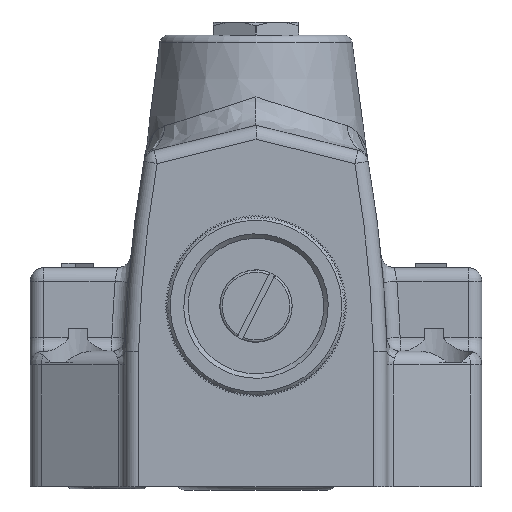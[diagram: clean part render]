
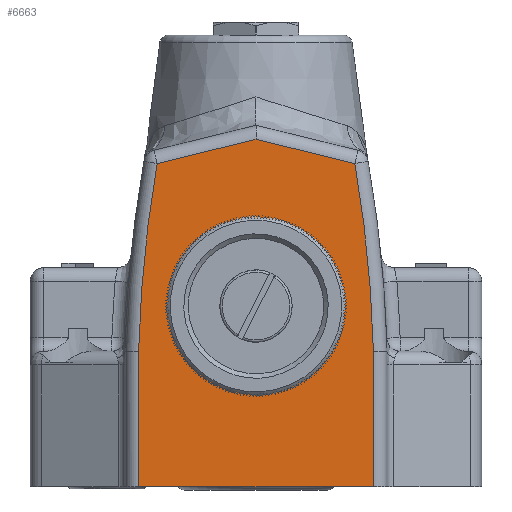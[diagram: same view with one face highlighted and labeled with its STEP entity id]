
A CAD part, front view. The second image highlights one B-rep face of the part: STEP entity #6663.
In plain terms, the highlighted planar face has unit normal (0, -1, 0).
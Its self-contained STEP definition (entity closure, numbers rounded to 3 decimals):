
#2964=LINE('',#62981,#3659);
#2995=LINE('',#63079,#3690);
#2996=LINE('',#63080,#3691);
#2997=LINE('',#63084,#3692);
#2998=LINE('',#63086,#3693);
#3659=VECTOR('',#23128,1.);
#3690=VECTOR('',#23209,1.);
#3691=VECTOR('',#23210,1.);
#3692=VECTOR('',#23213,1.);
#3693=VECTOR('',#23214,1.);
#5751=PLANE('',#19877);
#6663=ADVANCED_FACE('',(#7723,#7724),#5751,.F.);
#7723=FACE_BOUND('',#8934,.T.);
#7724=FACE_BOUND('',#8935,.T.);
#8934=EDGE_LOOP('',(#13052));
#8935=EDGE_LOOP('',(#13053,#13054,#13055,#13056,#13057,#13058,#13059));
#13052=ORIENTED_EDGE('',*,*,#17701,.F.);
#13053=ORIENTED_EDGE('',*,*,#17702,.T.);
#13054=ORIENTED_EDGE('',*,*,#17703,.T.);
#13055=ORIENTED_EDGE('',*,*,#17657,.T.);
#13056=ORIENTED_EDGE('',*,*,#17704,.T.);
#13057=ORIENTED_EDGE('',*,*,#17705,.T.);
#13058=ORIENTED_EDGE('',*,*,#17706,.T.);
#13059=ORIENTED_EDGE('',*,*,#17707,.T.);
#15441=VERTEX_POINT('',#62980);
#15442=VERTEX_POINT('',#62982);
#15481=VERTEX_POINT('',#63075);
#15482=VERTEX_POINT('',#63077);
#15483=VERTEX_POINT('',#63078);
#15484=VERTEX_POINT('',#63081);
#15485=VERTEX_POINT('',#63083);
#15486=VERTEX_POINT('',#63085);
#17657=EDGE_CURVE('',#15442,#15441,#2964,.T.);
#17701=EDGE_CURVE('',#15481,#15481,#18516,.T.);
#17702=EDGE_CURVE('',#15482,#15483,#18517,.T.);
#17703=EDGE_CURVE('',#15483,#15442,#2995,.T.);
#17704=EDGE_CURVE('',#15441,#15484,#2996,.T.);
#17705=EDGE_CURVE('',#15484,#15485,#18518,.T.);
#17706=EDGE_CURVE('',#15485,#15486,#2997,.T.);
#17707=EDGE_CURVE('',#15486,#15482,#2998,.T.);
#18516=CIRCLE('',#19874,19.);
#18517=CIRCLE('',#19875,289.467);
#18518=CIRCLE('',#19876,289.467);
#19874=AXIS2_PLACEMENT_3D('',#63074,#23205,#23206);
#19875=AXIS2_PLACEMENT_3D('',#63076,#23207,#23208);
#19876=AXIS2_PLACEMENT_3D('',#63082,#23211,#23212);
#19877=AXIS2_PLACEMENT_3D('',#63087,#23215,#23216);
#23128=DIRECTION('',(1.,0.,0.));
#23205=DIRECTION('',(0.,-1.,0.));
#23206=DIRECTION('',(1.,0.,0.));
#23207=DIRECTION('',(0.,-1.,0.));
#23208=DIRECTION('',(-1.,0.,0.));
#23209=DIRECTION('',(0.,0.,-1.));
#23210=DIRECTION('',(0.,0.,1.));
#23211=DIRECTION('',(0.,-1.,0.));
#23212=DIRECTION('',(-1.,0.,0.));
#23213=DIRECTION('',(-0.971,0.,0.238));
#23214=DIRECTION('',(-0.971,0.,-0.238));
#23215=DIRECTION('',(0.,1.,0.));
#23216=DIRECTION('',(-1.,0.,0.));
#62980=CARTESIAN_POINT('',(26.,0.,0.));
#62981=CARTESIAN_POINT('',(0.,0.,0.));
#62982=CARTESIAN_POINT('',(-26.,0.,0.));
#63074=CARTESIAN_POINT('',(0.,0.,40.));
#63075=CARTESIAN_POINT('',(19.,0.,40.));
#63076=CARTESIAN_POINT('',(263.366,0.,22.329));
#63077=CARTESIAN_POINT('',(-21.885,0.,71.552));
#63078=CARTESIAN_POINT('',(-26.,0.,29.961));
#63079=CARTESIAN_POINT('',(-26.,0.,30.));
#63080=CARTESIAN_POINT('',(26.,0.,30.));
#63081=CARTESIAN_POINT('',(26.,0.,29.961));
#63082=CARTESIAN_POINT('',(-263.366,0.,22.329));
#63083=CARTESIAN_POINT('',(21.885,0.,71.552));
#63084=CARTESIAN_POINT('',(-0.714,0.,77.086));
#63085=CARTESIAN_POINT('',(0.,0.,76.911));
#63086=CARTESIAN_POINT('',(-23.786,0.,71.086));
#63087=CARTESIAN_POINT('',(0.,0.,30.));
